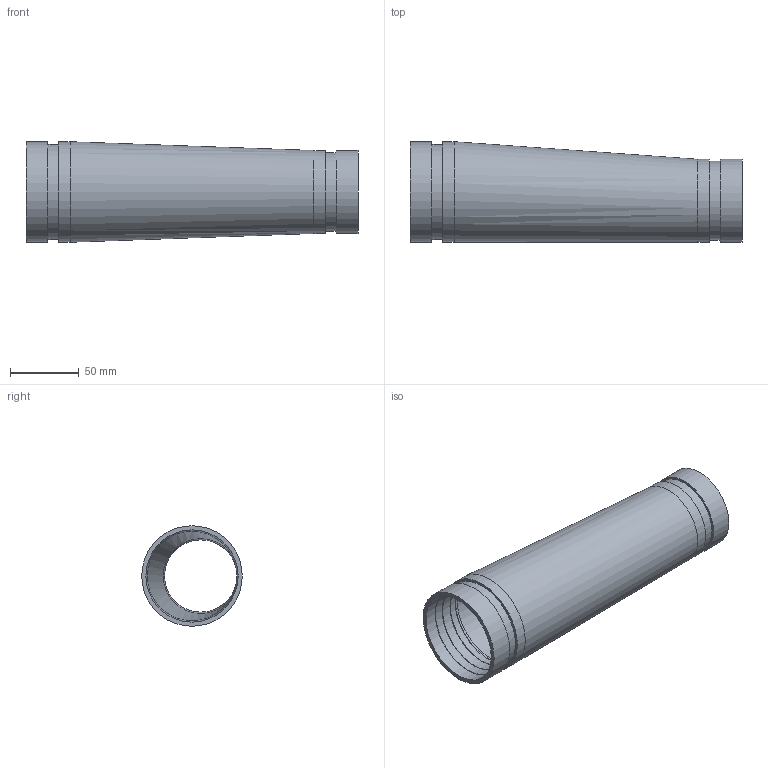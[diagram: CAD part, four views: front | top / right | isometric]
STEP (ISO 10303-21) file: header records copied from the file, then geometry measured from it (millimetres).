
FILE_DESCRIPTION(/* description */ ('VIC REDUCER ECCENTRIC No 451H-SS','CAx-IF Rec.Pracs.---Representation and Presentation of Product Manufacturing Information (PMI)---4.0---2014-10-13'),/* implementation_level */ '2;1');
FILE_NAME(/* name */ 'C:\Users\kkamble\AppData\Roaming\Autodesk\ApplicationPlugins\Back Up\Victaulic_SS-OGS_Reducer Eccentric_Sched 40S_No 451H SS (OGS)\Victaulic_SS-OGS_Reducer Eccentric_Sched 40S_No 451H SS (OGS)_02.5x02.0 (65x50).stp',/* time_stamp */ '2020-08-25T18:05:33+06:00',/* author */ ('CORINNE GRAY'),/* organization */ ('Victaulic'),/* preprocessor_version */ 'ST-DEVELOPER v17.2',/* originating_system */ 'Autodesk Inventor 2019',/* authorisation */ '');
FILE_SCHEMA (('AP242_MANAGED_MODEL_BASED_3D_ENGINEERING_MIM_LF { 1 0 10303 442 1 1 4 }'));
Length unit declared in the file: inch
Products named in the file (1): 451H SS-02.5x02.0
Bounding box: 241.3 x 73.03 x 73.03 mm (x, y, z)
Volume: 138499.2 mm3; surface area: 99128.7 mm2
Topology: 1 solids, 1 shells, 32 faces, 111 edges, 85 vertices
Faces by surface type: cylinder 12, torus 8, plane 6, cone 4, bspline 2
Full cylindrical faces by diameter (mm): 52.578 x1, 54.864 x2, 57.15 x1, 60.325 x2, 65.024 x1, 67.056 x2, 69.088 x1, 73.025 x2
Entity records: 1504 total; most frequent: DIRECTION 290, CARTESIAN_POINT 282, ORIENTED_EDGE 222, AXIS2_PLACEMENT_3D 137, EDGE_CURVE 111, CIRCLE 93, VERTEX_POINT 85, EDGE_LOOP 38
